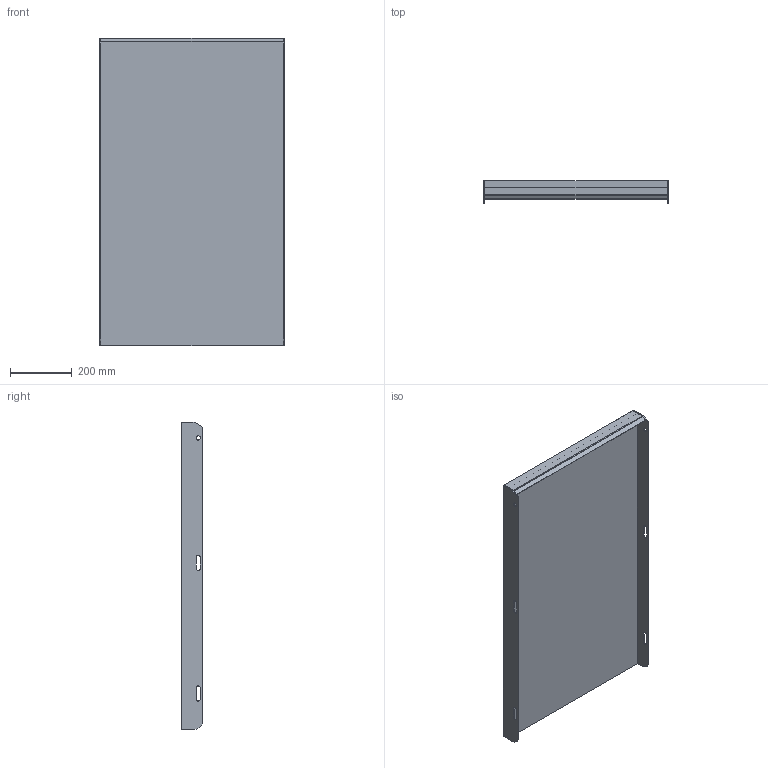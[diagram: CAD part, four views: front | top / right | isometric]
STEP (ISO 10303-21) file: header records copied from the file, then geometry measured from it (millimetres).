
FILE_DESCRIPTION (( 'STEP AP203' ), '1' );
FILE_NAME ('148806101, Plan TH6, 600x1000, vfz.STEP', '2020-10-21T13:28:51', ( '' ), ( '' ), 'SwSTEP 2.0', 'SolidWorks 2019', '' );
FILE_SCHEMA (( 'CONFIG_CONTROL_DESIGN' ));
Length unit declared in the file: millimetre
Products named in the file (4): SW0000041477; 148806101, Plan TH6, 600x1000, vfz; SW0000041825; SW0000041407
Assembly tree (4 placements, depth 2):
  148806101, Plan TH6, 600x1000, vfz
    SW0000041825
    SW0000041407  x2
    SW0000041477
Bounding box: 600 x 70 x 997 mm (x, y, z)
Volume: 12321269.7 mm3; surface area: 1606048 mm2
Topology: 4 solids, 4 shells, 69 faces, 172 edges, 112 vertices
Faces by surface type: plane 49, cylinder 20
Entity records: 1868 total; most frequent: DIRECTION 252, CARTESIAN_POINT 250, ORIENTED_EDGE 236, EDGE_CURVE 118, LINE 96, VECTOR 96, AXIS2_PLACEMENT_3D 78, VERTEX_POINT 76
